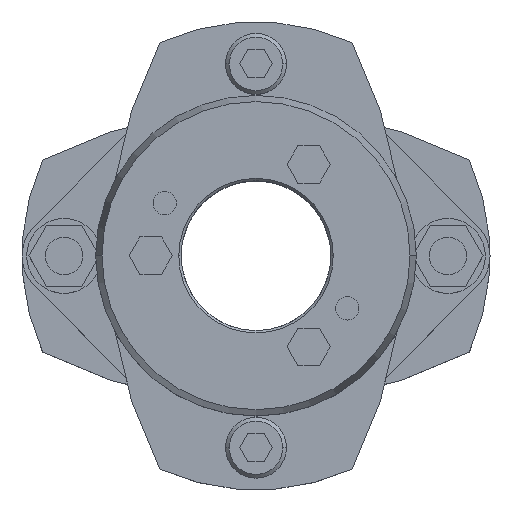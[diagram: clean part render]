
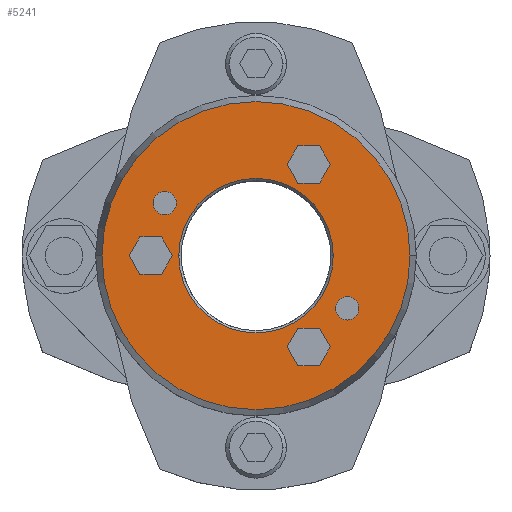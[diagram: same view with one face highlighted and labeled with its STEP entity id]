
A CAD part, top view. The second image highlights one B-rep face of the part: STEP entity #5241.
In plain terms, the highlighted planar face has unit normal (0, 0, 1).
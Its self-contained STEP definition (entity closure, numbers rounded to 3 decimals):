
#857=CARTESIAN_POINT('',(-16.5,0.,42.0));
#858=VERTEX_POINT('',#857);
#874=CARTESIAN_POINT('',(16.5,0.,42.0));
#875=VERTEX_POINT('',#874);
#882=CARTESIAN_POINT('',(0.,0.,42.0));
#883=DIRECTION('',(0.0,0.0,1.0));
#884=DIRECTION('',(-1.0,0.0,0.0));
#885=AXIS2_PLACEMENT_3D('',#882,#883,#884);
#886=CIRCLE('',#885,16.5);
#887=EDGE_CURVE('',#875,#858,#886,.T.);
#1045=CARTESIAN_POINT('',(32.91,0.,42.0));
#1046=VERTEX_POINT('',#1045);
#1053=CARTESIAN_POINT('',(-32.91,0.,42.0));
#1054=VERTEX_POINT('',#1053);
#1055=CARTESIAN_POINT('',(0.,0.,42.0));
#1056=DIRECTION('',(0.0,0.0,-1.0));
#1057=DIRECTION('',(1.0,0.0,0.0));
#1058=AXIS2_PLACEMENT_3D('',#1055,#1056,#1057);
#1059=CIRCLE('',#1058,32.91);
#1060=EDGE_CURVE('',#1046,#1054,#1059,.T.);
#1155=CARTESIAN_POINT('',(16.986,-11.25,42.0));
#1156=VERTEX_POINT('',#1155);
#1172=CARTESIAN_POINT('',(21.986,-11.25,42.0));
#1173=VERTEX_POINT('',#1172);
#1180=CARTESIAN_POINT('',(19.486,-11.25,42.0));
#1181=DIRECTION('',(0.0,0.0,-1.0));
#1182=DIRECTION('',(-1.0,0.0,0.0));
#1183=AXIS2_PLACEMENT_3D('',#1180,#1181,#1182);
#1184=CIRCLE('',#1183,2.5);
#1185=EDGE_CURVE('',#1156,#1173,#1184,.T.);
#1197=CARTESIAN_POINT('',(-21.986,11.25,42.0));
#1198=VERTEX_POINT('',#1197);
#1214=CARTESIAN_POINT('',(-16.986,11.25,42.0));
#1215=VERTEX_POINT('',#1214);
#1222=CARTESIAN_POINT('',(-19.486,11.25,42.0));
#1223=DIRECTION('',(0.0,0.0,-1.0));
#1224=DIRECTION('',(-1.0,0.0,0.0));
#1225=AXIS2_PLACEMENT_3D('',#1222,#1223,#1224);
#1226=CIRCLE('',#1225,2.5);
#1227=EDGE_CURVE('',#1198,#1215,#1226,.T.);
#4268=CARTESIAN_POINT('',(-19.486,11.25,42.0));
#4269=DIRECTION('',(0.0,0.0,-1.0));
#4270=DIRECTION('',(-1.0,0.0,0.0));
#4271=AXIS2_PLACEMENT_3D('',#4268,#4269,#4270);
#4272=CIRCLE('',#4271,2.5);
#4273=EDGE_CURVE('',#1215,#1198,#4272,.T.);
#4302=CARTESIAN_POINT('',(19.486,-11.25,42.0));
#4303=DIRECTION('',(0.0,0.0,-1.0));
#4304=DIRECTION('',(-1.0,0.0,0.0));
#4305=AXIS2_PLACEMENT_3D('',#4302,#4303,#4304);
#4306=CIRCLE('',#4305,2.5);
#4307=EDGE_CURVE('',#1173,#1156,#4306,.T.);
#4345=CARTESIAN_POINT('',(-27.119,0.,42.0));
#4346=VERTEX_POINT('',#4345);
#4353=CARTESIAN_POINT('',(-24.809,-4.,42.0));
#4354=VERTEX_POINT('',#4353);
#4355=CARTESIAN_POINT('',(-24.809,-4.,42.0));
#4356=DIRECTION('',(-0.5,0.866,0.0));
#4357=VECTOR('',#4356,4.619);
#4358=LINE('',#4355,#4357);
#4359=EDGE_CURVE('',#4354,#4346,#4358,.T.);
#4383=CARTESIAN_POINT('',(-24.809,4.,42.0));
#4384=VERTEX_POINT('',#4383);
#4391=CARTESIAN_POINT('',(-27.119,0.,42.0));
#4392=DIRECTION('',(0.5,0.866,0.0));
#4393=VECTOR('',#4392,4.619);
#4394=LINE('',#4391,#4393);
#4395=EDGE_CURVE('',#4346,#4384,#4394,.T.);
#4414=CARTESIAN_POINT('',(-20.191,4.,42.0));
#4415=VERTEX_POINT('',#4414);
#4422=CARTESIAN_POINT('',(-24.809,4.,42.0));
#4423=DIRECTION('',(1.0,0.0,0.0));
#4424=VECTOR('',#4423,4.619);
#4425=LINE('',#4422,#4424);
#4426=EDGE_CURVE('',#4384,#4415,#4425,.T.);
#4445=CARTESIAN_POINT('',(-17.881,0.,42.0));
#4446=VERTEX_POINT('',#4445);
#4453=CARTESIAN_POINT('',(-20.191,4.,42.0));
#4454=DIRECTION('',(0.5,-0.866,0.0));
#4455=VECTOR('',#4454,4.619);
#4456=LINE('',#4453,#4455);
#4457=EDGE_CURVE('',#4415,#4446,#4456,.T.);
#4476=CARTESIAN_POINT('',(-20.191,-4.,42.0));
#4477=VERTEX_POINT('',#4476);
#4484=CARTESIAN_POINT('',(-17.881,0.,42.0));
#4485=DIRECTION('',(-0.5,-0.866,0.0));
#4486=VECTOR('',#4485,4.619);
#4487=LINE('',#4484,#4486);
#4488=EDGE_CURVE('',#4446,#4477,#4487,.T.);
#4506=CARTESIAN_POINT('',(-20.191,-4.,42.0));
#4507=DIRECTION('',(-1.0,0.0,0.0));
#4508=VECTOR('',#4507,4.619);
#4509=LINE('',#4506,#4508);
#4510=EDGE_CURVE('',#4477,#4354,#4509,.T.);
#4545=CARTESIAN_POINT('',(6.631,19.486,42.0));
#4546=VERTEX_POINT('',#4545);
#4553=CARTESIAN_POINT('',(8.941,15.486,42.0));
#4554=VERTEX_POINT('',#4553);
#4555=CARTESIAN_POINT('',(8.941,15.486,42.0));
#4556=DIRECTION('',(-0.5,0.866,0.0));
#4557=VECTOR('',#4556,4.619);
#4558=LINE('',#4555,#4557);
#4559=EDGE_CURVE('',#4554,#4546,#4558,.T.);
#4583=CARTESIAN_POINT('',(8.941,23.486,42.0));
#4584=VERTEX_POINT('',#4583);
#4591=CARTESIAN_POINT('',(6.631,19.486,42.0));
#4592=DIRECTION('',(0.5,0.866,0.0));
#4593=VECTOR('',#4592,4.619);
#4594=LINE('',#4591,#4593);
#4595=EDGE_CURVE('',#4546,#4584,#4594,.T.);
#4614=CARTESIAN_POINT('',(13.559,23.486,42.0));
#4615=VERTEX_POINT('',#4614);
#4622=CARTESIAN_POINT('',(8.941,23.486,42.0));
#4623=DIRECTION('',(1.0,0.0,0.0));
#4624=VECTOR('',#4623,4.619);
#4625=LINE('',#4622,#4624);
#4626=EDGE_CURVE('',#4584,#4615,#4625,.T.);
#4645=CARTESIAN_POINT('',(15.869,19.486,42.0));
#4646=VERTEX_POINT('',#4645);
#4653=CARTESIAN_POINT('',(13.559,23.486,42.0));
#4654=DIRECTION('',(0.5,-0.866,0.0));
#4655=VECTOR('',#4654,4.619);
#4656=LINE('',#4653,#4655);
#4657=EDGE_CURVE('',#4615,#4646,#4656,.T.);
#4676=CARTESIAN_POINT('',(13.559,15.486,42.0));
#4677=VERTEX_POINT('',#4676);
#4684=CARTESIAN_POINT('',(15.869,19.486,42.0));
#4685=DIRECTION('',(-0.5,-0.866,0.0));
#4686=VECTOR('',#4685,4.619);
#4687=LINE('',#4684,#4686);
#4688=EDGE_CURVE('',#4646,#4677,#4687,.T.);
#4706=CARTESIAN_POINT('',(13.559,15.486,42.0));
#4707=DIRECTION('',(-1.0,0.0,0.0));
#4708=VECTOR('',#4707,4.619);
#4709=LINE('',#4706,#4708);
#4710=EDGE_CURVE('',#4677,#4554,#4709,.T.);
#4745=CARTESIAN_POINT('',(6.631,-19.486,42.0));
#4746=VERTEX_POINT('',#4745);
#4753=CARTESIAN_POINT('',(8.941,-23.486,42.0));
#4754=VERTEX_POINT('',#4753);
#4755=CARTESIAN_POINT('',(8.941,-23.486,42.0));
#4756=DIRECTION('',(-0.5,0.866,0.0));
#4757=VECTOR('',#4756,4.619);
#4758=LINE('',#4755,#4757);
#4759=EDGE_CURVE('',#4754,#4746,#4758,.T.);
#4783=CARTESIAN_POINT('',(8.941,-15.486,42.0));
#4784=VERTEX_POINT('',#4783);
#4791=CARTESIAN_POINT('',(6.631,-19.486,42.0));
#4792=DIRECTION('',(0.5,0.866,0.0));
#4793=VECTOR('',#4792,4.619);
#4794=LINE('',#4791,#4793);
#4795=EDGE_CURVE('',#4746,#4784,#4794,.T.);
#4814=CARTESIAN_POINT('',(13.559,-15.486,42.0));
#4815=VERTEX_POINT('',#4814);
#4822=CARTESIAN_POINT('',(8.941,-15.486,42.0));
#4823=DIRECTION('',(1.0,0.0,0.0));
#4824=VECTOR('',#4823,4.619);
#4825=LINE('',#4822,#4824);
#4826=EDGE_CURVE('',#4784,#4815,#4825,.T.);
#4845=CARTESIAN_POINT('',(15.869,-19.486,42.0));
#4846=VERTEX_POINT('',#4845);
#4853=CARTESIAN_POINT('',(13.559,-15.486,42.0));
#4854=DIRECTION('',(0.5,-0.866,0.0));
#4855=VECTOR('',#4854,4.619);
#4856=LINE('',#4853,#4855);
#4857=EDGE_CURVE('',#4815,#4846,#4856,.T.);
#4876=CARTESIAN_POINT('',(13.559,-23.486,42.0));
#4877=VERTEX_POINT('',#4876);
#4884=CARTESIAN_POINT('',(15.869,-19.486,42.0));
#4885=DIRECTION('',(-0.5,-0.866,0.0));
#4886=VECTOR('',#4885,4.619);
#4887=LINE('',#4884,#4886);
#4888=EDGE_CURVE('',#4846,#4877,#4887,.T.);
#4906=CARTESIAN_POINT('',(13.559,-23.486,42.0));
#4907=DIRECTION('',(-1.0,0.0,0.0));
#4908=VECTOR('',#4907,4.619);
#4909=LINE('',#4906,#4908);
#4910=EDGE_CURVE('',#4877,#4754,#4909,.T.);
#5180=CARTESIAN_POINT('',(0.,0.,42.0));
#5181=DIRECTION('',(0.0,0.0,-1.0));
#5182=DIRECTION('',(1.0,0.0,0.0));
#5183=AXIS2_PLACEMENT_3D('',#5180,#5181,#5182);
#5184=CIRCLE('',#5183,32.91);
#5185=EDGE_CURVE('',#1054,#1046,#5184,.T.);
#5190=CARTESIAN_POINT('',(-3.114,0.,42.0));
#5191=DIRECTION('',(0.0,0.0,1.0));
#5192=DIRECTION('',(-1.0,0.0,0.0));
#5193=AXIS2_PLACEMENT_3D('',#5190,#5191,#5192);
#5194=PLANE('',#5193);
#5195=ORIENTED_EDGE('',*,*,#5185,.F.);
#5196=ORIENTED_EDGE('',*,*,#1060,.F.);
#5197=EDGE_LOOP('',(#5195,#5196));
#5198=FACE_OUTER_BOUND('',#5197,.T.);
#5199=ORIENTED_EDGE('',*,*,#1227,.T.);
#5200=ORIENTED_EDGE('',*,*,#4273,.T.);
#5201=EDGE_LOOP('',(#5199,#5200));
#5202=FACE_BOUND('',#5201,.T.);
#5203=ORIENTED_EDGE('',*,*,#1185,.T.);
#5204=ORIENTED_EDGE('',*,*,#4307,.T.);
#5205=EDGE_LOOP('',(#5203,#5204));
#5206=FACE_BOUND('',#5205,.T.);
#5207=ORIENTED_EDGE('',*,*,#4359,.T.);
#5208=ORIENTED_EDGE('',*,*,#4395,.T.);
#5209=ORIENTED_EDGE('',*,*,#4426,.T.);
#5210=ORIENTED_EDGE('',*,*,#4457,.T.);
#5211=ORIENTED_EDGE('',*,*,#4488,.T.);
#5212=ORIENTED_EDGE('',*,*,#4510,.T.);
#5213=EDGE_LOOP('',(#5207,#5208,#5209,#5210,#5211,#5212));
#5214=FACE_BOUND('',#5213,.T.);
#5215=ORIENTED_EDGE('',*,*,#4559,.T.);
#5216=ORIENTED_EDGE('',*,*,#4595,.T.);
#5217=ORIENTED_EDGE('',*,*,#4626,.T.);
#5218=ORIENTED_EDGE('',*,*,#4657,.T.);
#5219=ORIENTED_EDGE('',*,*,#4688,.T.);
#5220=ORIENTED_EDGE('',*,*,#4710,.T.);
#5221=EDGE_LOOP('',(#5215,#5216,#5217,#5218,#5219,#5220));
#5222=FACE_BOUND('',#5221,.T.);
#5223=ORIENTED_EDGE('',*,*,#4759,.T.);
#5224=ORIENTED_EDGE('',*,*,#4795,.T.);
#5225=ORIENTED_EDGE('',*,*,#4826,.T.);
#5226=ORIENTED_EDGE('',*,*,#4857,.T.);
#5227=ORIENTED_EDGE('',*,*,#4888,.T.);
#5228=ORIENTED_EDGE('',*,*,#4910,.T.);
#5229=EDGE_LOOP('',(#5223,#5224,#5225,#5226,#5227,#5228));
#5230=FACE_BOUND('',#5229,.T.);
#5231=ORIENTED_EDGE('',*,*,#887,.F.);
#5232=CARTESIAN_POINT('',(0.,0.,42.0));
#5233=DIRECTION('',(0.0,0.0,1.0));
#5234=DIRECTION('',(-1.0,0.0,0.0));
#5235=AXIS2_PLACEMENT_3D('',#5232,#5233,#5234);
#5236=CIRCLE('',#5235,16.5);
#5237=EDGE_CURVE('',#858,#875,#5236,.T.);
#5238=ORIENTED_EDGE('',*,*,#5237,.F.);
#5239=EDGE_LOOP('',(#5231,#5238));
#5240=FACE_BOUND('',#5239,.T.);
#5241=ADVANCED_FACE('',(#5198,#5202,#5206,#5214,#5222,#5230,#5240),#5194,.T.);
